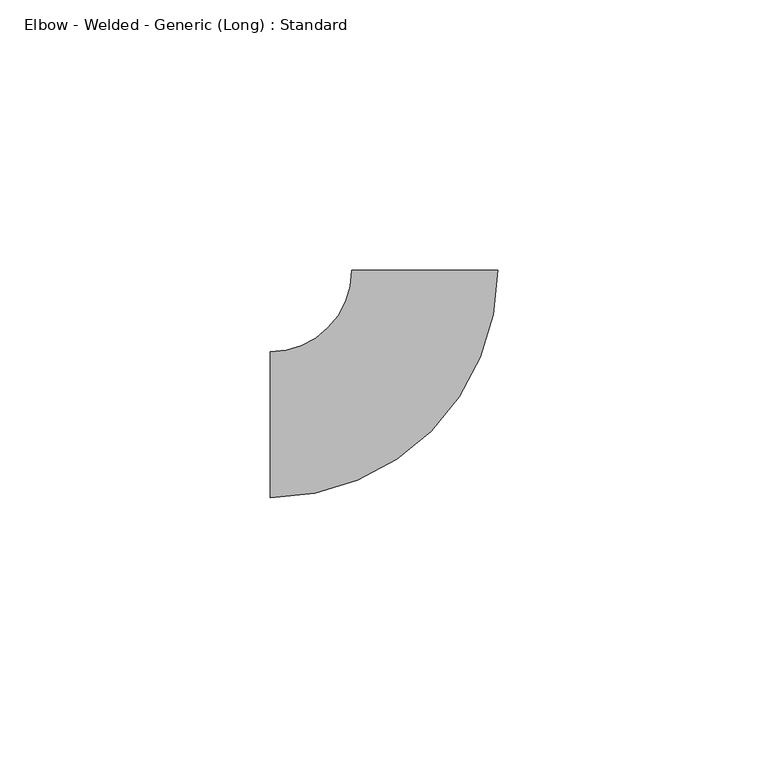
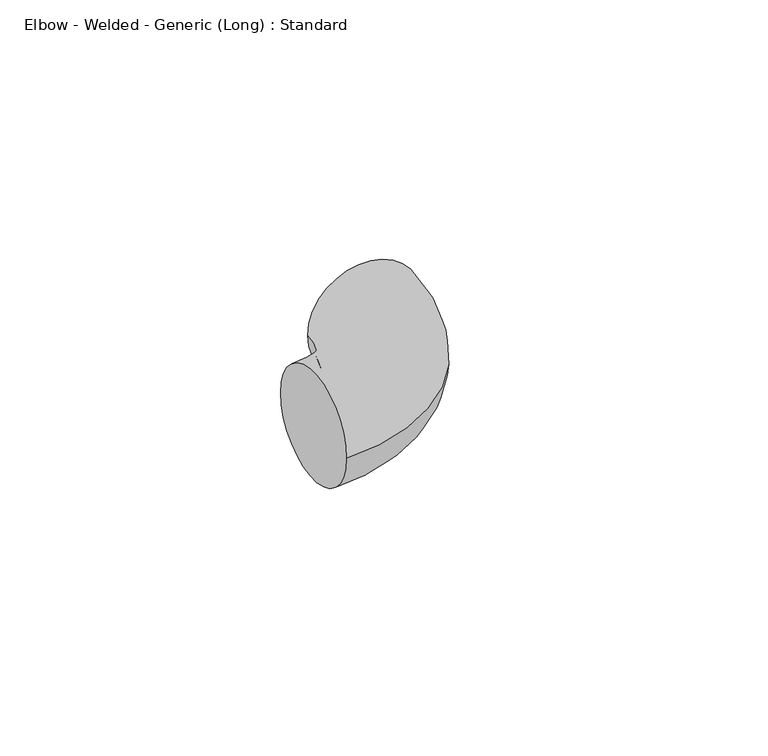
"""IFC4 building model written with IfcOpenShell, lengths in millimetres: pipe fitting geometry, Elbow - Welded - Generic (Long) : Standard."""

from ifc_helpers import new_model, si_unit, point, frame, origin, place, context, project, spatial, circle_curve, ellipse_curve, trimmed, source, transform, mapped, element, save
from ifc_brep_helpers import plane_surface, revolved_surface, advanced_brep


def elbow_welded_generic_long_standard_6fc0c332(model_context):
    return source(origin(), model_context, "Body", "AdvancedBrep", [
        advanced_brep(
        [(-28.575, -13.49375, 0.0), (-28.575, 13.49375, 0.0), (13.4990959, 28.5724749, 0.0), (-13.4884036, 28.5775241, 0.0)],
        [
            (0, 1, circle_curve(frame((-28.575, 0.0, 0.0), z_axis=(-1.0, 0.0, 0.0), x_axis=(0.0, 1.0, 0.0)), 13.49375)),
            (1, 0, circle_curve(frame((-28.575, 0.0, 0.0), z_axis=(-1.0, 0.0, 0.0), x_axis=(0.0, 1.0, 0.0)), 13.49375)),
            (2, 3, circle_curve(frame((0.0053461, 28.5749995, 0.0), z_axis=(0.00018709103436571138, 0.9999999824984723, 0.0), x_axis=(-0.9999999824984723, 0.00018709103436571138, 0.0)), 13.49375)),
            (3, 2, circle_curve(frame((0.0053461, 28.5749995, 0.0), z_axis=(0.00018709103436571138, 0.9999999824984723, 0.0), x_axis=(-0.9999999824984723, 0.00018709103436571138, 0.0)), 13.49375)),
            (3, 1, circle_curve(frame((-28.575, 28.5803466, 0.0), z_axis=(0.0, 0.0, -1.0), x_axis=(0.0, -1.0, 0.0)), 15.0865966)),
            (0, 2, circle_curve(frame((-28.575, 28.5803466, 0.0), z_axis=(0.0, 0.0, 1.0), x_axis=(0.0, -1.0, 0.0)), 42.0740966)),
        ],
        [
            plane_surface(frame((-28.575, 0.0, 0.0), z_axis=(-1.0, 0.0, 0.0), x_axis=(0.0, 0.0, 1.0))),
            plane_surface(frame((0.0053461, 28.5749995, 0.0), z_axis=(0.0001870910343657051, 0.9999999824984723, 0.0), x_axis=(0.0, 0.0, 1.0))),
            revolved_surface(trimmed(ellipse_curve(frame((-28.575, 0.0, 0.0), z_axis=(-1.0, 0.0, 0.0), x_axis=(0.0, 1.0, 0.0)), 13.49375, 13.49375), [point((-28.575, -13.49375, 0.0))], [point((-28.575, 13.49375, 0.0))], True, "CARTESIAN"), (-28.575, 28.5803466, 0.0), (0.0, 0.0, 1.0)),
            revolved_surface(trimmed(ellipse_curve(frame((-28.575, 0.0, 0.0), z_axis=(-1.0, 0.0, 0.0), x_axis=(0.0, 1.0, 0.0)), 13.49375, 13.49375), [point((-28.575, 13.49375, 0.0))], [point((-28.575, -13.49375, 0.0))], True, "CARTESIAN"), (-28.575, 28.5803466, 0.0), (0.0, 0.0, 1.0)),
        ],
        [
            (0, [[1, 2]]),
            (1, [[3, 4]]),
            (2, [[5, -1, 6, -4]]),
            (3, [[-6, -2, -5, -3]]),
        ],
    ),
    ])


if __name__ == "__main__":
    model = new_model("IFC4")
    model_context = context("Model", 3, world=origin())
    ifc_project = project(units=[si_unit("LENGTHUNIT", "METRE", prefix="MILLI")], contexts=[model_context])
    site = spatial("IfcSite", under=ifc_project)
    building = spatial("IfcBuilding", under=site)
    placement = place(None, origin())
    elbow_welded_generic_long_standard_shape = elbow_welded_generic_long_standard_6fc0c332(model_context)
    element("IfcPipeFitting", 1, ObjectType="Elbow - Welded - Generic (Long) : Standard", at=placement, inside=building, context=model_context, shape_type="MappedRepresentation", body=[
        mapped(elbow_welded_generic_long_standard_shape, transform((0.0, 0.0, 0.0), x_axis=(1.0, 0.0, 0.0), y_axis=(0.0, 1.0, 0.0), z_axis=(0.0, 0.0, 1.0))),
    ])
    save(model, "model.ifc")
